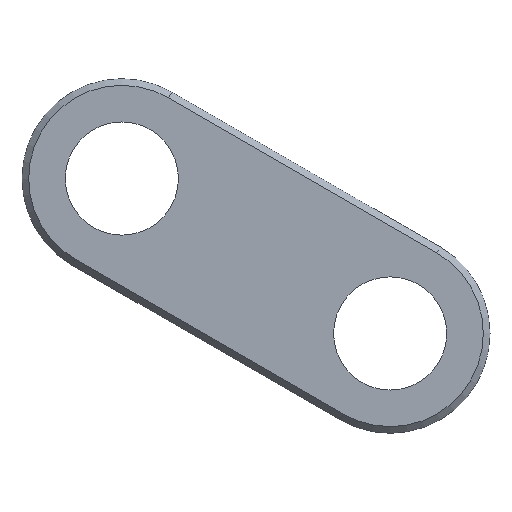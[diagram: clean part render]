
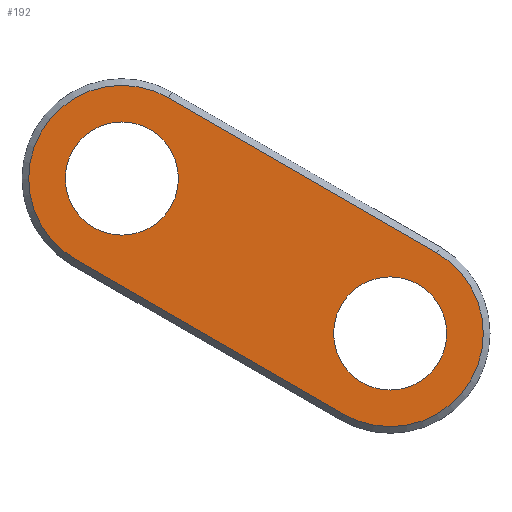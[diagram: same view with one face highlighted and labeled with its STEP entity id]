
A CAD part, left-side view. The second image highlights one B-rep face of the part: STEP entity #192.
In plain terms, the highlighted planar face has unit normal (-1, 0, 0).
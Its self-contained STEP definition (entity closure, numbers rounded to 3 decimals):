
#54=AXIS2_PLACEMENT_3D('Circle Axis2P3D',#52,#53,$) ;
#78=AXIS2_PLACEMENT_3D('Circle Axis2P3D',#76,#77,$) ;
#111=AXIS2_PLACEMENT_3D('Circle Axis2P3D',#109,#110,$) ;
#135=AXIS2_PLACEMENT_3D('Circle Axis2P3D',#133,#134,$) ;
#148=AXIS2_PLACEMENT_3D('Plane Axis2P3D',#145,#146,#147) ;
#152=AXIS2_PLACEMENT_3D('Circle Axis2P3D',#150,#151,$) ;
#168=AXIS2_PLACEMENT_3D('Circle Axis2P3D',#166,#167,$) ;
#49=CARTESIAN_POINT('Vertex',(39149.1,1412.545,2419.624)) ;
#52=CARTESIAN_POINT('Axis2P3D Location',(39149.1,1404.045,2419.624)) ;
#56=CARTESIAN_POINT('Vertex',(39149.1,1395.545,2419.624)) ;
#76=CARTESIAN_POINT('Axis2P3D Location',(39149.1,1404.045,2419.624)) ;
#106=CARTESIAN_POINT('Vertex',(39149.1,1452.856,2442.898)) ;
#109=CARTESIAN_POINT('Axis2P3D Location',(39149.1,1444.356,2442.898)) ;
#113=CARTESIAN_POINT('Vertex',(39149.1,1435.856,2442.898)) ;
#133=CARTESIAN_POINT('Axis2P3D Location',(39149.1,1444.356,2442.898)) ;
#145=CARTESIAN_POINT('Axis2P3D Location',(39149.1,1404.045,2419.624)) ;
#150=CARTESIAN_POINT('Axis2P3D Location',(39149.1,1404.045,2419.624)) ;
#154=CARTESIAN_POINT('Vertex',(39149.1,1397.045,2431.749)) ;
#156=CARTESIAN_POINT('Vertex',(39149.1,1411.045,2407.5)) ;
#159=CARTESIAN_POINT('Line Origine',(39149.1,1417.201,2443.386)) ;
#163=CARTESIAN_POINT('Vertex',(39149.1,1437.356,2455.022)) ;
#166=CARTESIAN_POINT('Axis2P3D Location',(39149.1,1444.356,2442.898)) ;
#170=CARTESIAN_POINT('Vertex',(39149.1,1451.356,2430.774)) ;
#173=CARTESIAN_POINT('Line Origine',(39149.1,1431.201,2419.137)) ;
#53=DIRECTION('Axis2P3D Direction',(1.,-0.,0.)) ;
#77=DIRECTION('Axis2P3D Direction',(1.,-0.,0.)) ;
#110=DIRECTION('Axis2P3D Direction',(1.,-0.,0.)) ;
#134=DIRECTION('Axis2P3D Direction',(1.,-0.,0.)) ;
#146=DIRECTION('Axis2P3D Direction',(1.,0.,0.)) ;
#147=DIRECTION('Axis2P3D XDirection',(0.,1.,0.)) ;
#151=DIRECTION('Axis2P3D Direction',(1.,0.,0.)) ;
#160=DIRECTION('Vector Direction',(0.,0.866,0.5)) ;
#167=DIRECTION('Axis2P3D Direction',(1.,0.,0.)) ;
#174=DIRECTION('Vector Direction',(0.,-0.866,-0.5)) ;
#161=VECTOR('Line Direction',#160,1.) ;
#175=VECTOR('Line Direction',#174,1.) ;
#179=ORIENTED_EDGE('',*,*,#158,.F.) ;
#180=ORIENTED_EDGE('',*,*,#165,.F.) ;
#181=ORIENTED_EDGE('',*,*,#172,.F.) ;
#182=ORIENTED_EDGE('',*,*,#177,.F.) ;
#185=ORIENTED_EDGE('',*,*,#80,.T.) ;
#186=ORIENTED_EDGE('',*,*,#58,.T.) ;
#189=ORIENTED_EDGE('',*,*,#137,.T.) ;
#190=ORIENTED_EDGE('',*,*,#115,.T.) ;
#187=FACE_BOUND('',#184,.T.) ;
#191=FACE_BOUND('',#188,.T.) ;
#192=ADVANCED_FACE('V.9626.7522.810.051 - \X2\041704320435043D043E\X0\',(#183,#187,#191),#149,.F.) ;
#55=CIRCLE('generated circle',#54,8.5) ;
#79=CIRCLE('generated circle',#78,8.5) ;
#112=CIRCLE('generated circle',#111,8.5) ;
#136=CIRCLE('generated circle',#135,8.5) ;
#153=CIRCLE('generated circle',#152,14.) ;
#169=CIRCLE('generated circle',#168,14.) ;
#58=EDGE_CURVE('',#57,#50,#55,.T.) ;
#80=EDGE_CURVE('',#50,#57,#79,.T.) ;
#115=EDGE_CURVE('',#114,#107,#112,.T.) ;
#137=EDGE_CURVE('',#107,#114,#136,.T.) ;
#158=EDGE_CURVE('',#155,#157,#153,.T.) ;
#165=EDGE_CURVE('',#164,#155,#162,.F.) ;
#172=EDGE_CURVE('',#171,#164,#169,.T.) ;
#177=EDGE_CURVE('',#157,#171,#176,.F.) ;
#178=EDGE_LOOP('',(#179,#180,#181,#182)) ;
#184=EDGE_LOOP('',(#185,#186)) ;
#188=EDGE_LOOP('',(#189,#190)) ;
#183=FACE_OUTER_BOUND('',#178,.T.) ;
#162=LINE('Line',#159,#161) ;
#176=LINE('Line',#173,#175) ;
#149=PLANE('',#148) ;
#50=VERTEX_POINT('',#49) ;
#57=VERTEX_POINT('',#56) ;
#107=VERTEX_POINT('',#106) ;
#114=VERTEX_POINT('',#113) ;
#155=VERTEX_POINT('',#154) ;
#157=VERTEX_POINT('',#156) ;
#164=VERTEX_POINT('',#163) ;
#171=VERTEX_POINT('',#170) ;
